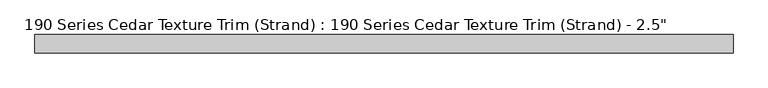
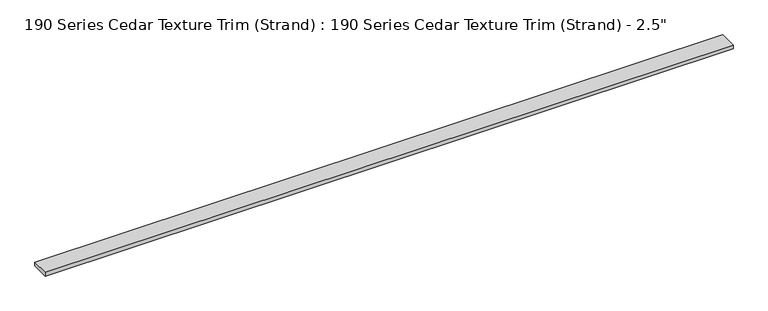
"""IFC4 building model written with IfcOpenShell, lengths in millimetres: proxy geometry."""

from ifc_helpers import new_model, si_unit, origin, origin_with_axes, place, context, project, spatial, polyline, outline, extrude, source, transform, mapped, element, save


def proxy_72df6d5a(model_context):
    return source(origin(), model_context, "Body", "SweptSolid", [
        extrude(outline(polyline([(2438.4, 0.0), (0.0, 0.0), (0.0, 63.5), (2438.4, 63.5), (2438.4, 0.0)])), origin_with_axes(), (0.0, 0.0, 1.0), 13.49375),
    ])


if __name__ == "__main__":
    model = new_model("IFC4")
    model_context = context("Model", 3, world=origin())
    ifc_project = project(units=[si_unit("LENGTHUNIT", "METRE", prefix="MILLI")], contexts=[model_context])
    site = spatial("IfcSite", under=ifc_project)
    building = spatial("IfcBuilding", under=site)
    placement = place(None, origin())
    proxy_shape = proxy_72df6d5a(model_context)
    element("IfcBuildingElementProxy", 1, Name="190 Series Cedar Texture Trim (Strand) : 190 Series Cedar Texture Trim (Strand) - 2.5\"", ObjectType="190 Series Cedar Texture Trim (Strand) : 190 Series Cedar Texture Trim (Strand) - 2.5\"", at=placement, inside=building, context=model_context, shape_type="MappedRepresentation", body=[
        mapped(proxy_shape, transform((0.0, 0.0, 0.0), x_axis=(1.0, 0.0, 0.0), y_axis=(0.0, 1.0, 0.0), z_axis=(0.0, 0.0, 1.0))),
    ])
    save(model, "model.ifc")
